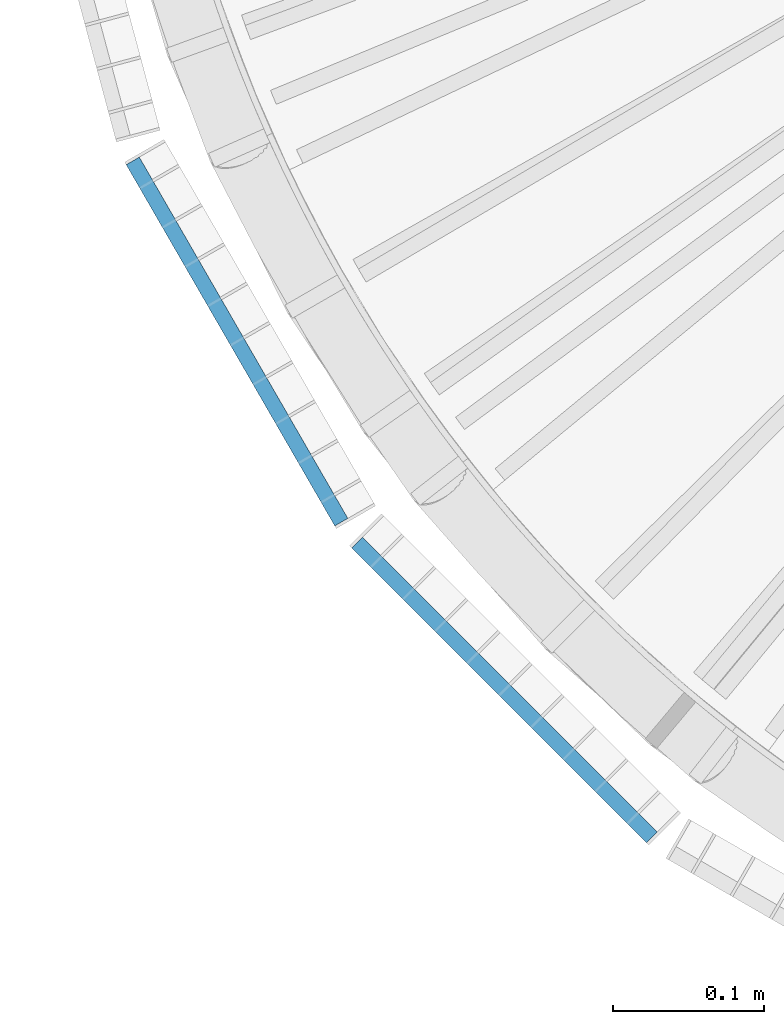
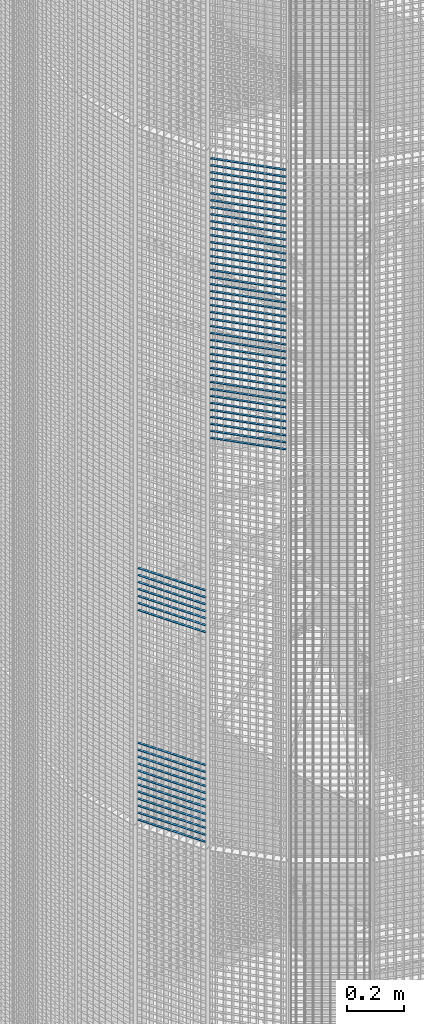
# One storey, part 335 of 1148: 60 beams, 2 elements without a shape of their own.
"""IFC2X3 building model written with IfcOpenShell, lengths in millimetres."""

from ifc_helpers import new_model, si_unit, frame, origin_with_axes, origin_2d_with_axis, place, context, subcontext, project, spatial, rectangle, extrude, material, type_object, element, aggregate, save


model = new_model("IFC2X3")

# Units and contexts
model_context = context("Model", 3, precision=1e-05, world=origin_with_axes())
body_context = subcontext(model_context, "Body", "Model", "MODEL_VIEW")
ifc_project = project(units=[si_unit("LENGTHUNIT", "METRE", prefix="MILLI"), si_unit("AREAUNIT", "SQUARE_METRE"), si_unit("VOLUMEUNIT", "CUBIC_METRE"), si_unit("MASSUNIT", "GRAM", prefix="KILO"), si_unit("TIMEUNIT", "SECOND"), si_unit("PLANEANGLEUNIT", "RADIAN"), si_unit("SOLIDANGLEUNIT", "STERADIAN"), si_unit("THERMODYNAMICTEMPERATUREUNIT", "DEGREE_CELSIUS"), si_unit("LUMINOUSINTENSITYUNIT", "LUMEN")], contexts=[model_context])

# Site, building, storey
site_placement = place(None, origin_with_axes())
site = spatial("IfcSite", under=ifc_project, at=site_placement, Name="Undefined", CompositionType="ELEMENT")
building_placement = place(site_placement, origin_with_axes())
building = spatial("IfcBuilding", under=site, at=building_placement, Name="Undefined", CompositionType="ELEMENT")
storey_placement = place(building_placement, origin_with_axes())
storey = spatial("IfcBuildingStorey", under=building, at=storey_placement, Name="Undefined", CompositionType="ELEMENT", Elevation=0.0)

# Assembly, beams
assembly_1_placement = place(storey_placement, origin_with_axes())
assembly_1 = element("IfcElementAssembly", 1, at=assembly_1_placement, inside=storey, Name="BORDURE", AssemblyPlace="NOTDEFINED", PredefinedType="NOTDEFINED")
ifc_material = material(Name="STEEL/S235JR")
beam_type = type_object("IfcBeamType", Name="PL2*10", PredefinedType="NOTDEFINED")
beam_1_placement = place(assembly_1_placement, frame((20704.6960350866, -676.248044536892, 12930.0), z_axis=(-0.866025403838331, -0.499999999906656, 0.0), x_axis=(-0.49999999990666, 0.866025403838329, 0.0)))
beam_1 = element("IfcBeam", 2, at=beam_1_placement, type_object=beam_type, material=ifc_material, Name="ENTRETOISE", context=body_context, shape_type="SweptSolid", body=[
    extrude(rectangle(XDim=2.0, YDim=10.0, at=origin_2d_with_axis()), frame((275.999999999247, 9.09494701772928e-13, 1.53210777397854e-14), z_axis=(-1.0, 0.0, 0.0), x_axis=(0.0, -1.0, 0.0)), (0.0, 0.0, 1.0), 276.0),
])
beam_2_placement = place(assembly_1_placement, frame((20704.6960350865, -676.24804453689, 12360.0), z_axis=(-0.866025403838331, -0.499999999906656, 0.0), x_axis=(-0.49999999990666, 0.866025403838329, 0.0)))
beam_2 = element("IfcBeam", 3, at=beam_2_placement, type_object=beam_type, material=ifc_material, Name="ENTRETOISE", context=body_context, shape_type="SweptSolid", body=[
    extrude(rectangle(XDim=2.0, YDim=10.0, at=origin_2d_with_axis()), frame((275.999999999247, 9.09494701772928e-13, 1.53210777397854e-14), z_axis=(-1.0, 0.0, 0.0), x_axis=(0.0, -1.0, 0.0)), (0.0, 0.0, 1.0), 276.0),
])
beam_3_placement = place(assembly_1_placement, frame((20704.6960350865, -676.24804453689, 12330.0), z_axis=(-0.866025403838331, -0.499999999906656, 0.0), x_axis=(-0.49999999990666, 0.866025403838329, 0.0)))
beam_3 = element("IfcBeam", 4, at=beam_3_placement, type_object=beam_type, material=ifc_material, Name="ENTRETOISE", context=body_context, shape_type="SweptSolid", body=[
    extrude(rectangle(XDim=2.0, YDim=10.0, at=origin_2d_with_axis()), frame((275.999999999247, 9.09494701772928e-13, 1.53210777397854e-14), z_axis=(-1.0, 0.0, 0.0), x_axis=(0.0, -1.0, 0.0)), (0.0, 0.0, 1.0), 276.0),
])
beam_4_placement = place(assembly_1_placement, frame((20704.6960350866, -676.248044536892, 12960.0), z_axis=(-0.866025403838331, -0.499999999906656, 0.0), x_axis=(-0.49999999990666, 0.866025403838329, 0.0)))
beam_4 = element("IfcBeam", 5, at=beam_4_placement, type_object=beam_type, material=ifc_material, Name="ENTRETOISE", context=body_context, shape_type="SweptSolid", body=[
    extrude(rectangle(XDim=2.0, YDim=10.0, at=origin_2d_with_axis()), frame((275.999999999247, 9.09494701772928e-13, 1.53210777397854e-14), z_axis=(-1.0, 0.0, 0.0), x_axis=(0.0, -1.0, 0.0)), (0.0, 0.0, 1.0), 276.0),
])
beam_5_placement = place(assembly_1_placement, frame((20704.6960350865, -676.24804453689, 12300.0), z_axis=(-0.866025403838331, -0.499999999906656, 0.0), x_axis=(-0.49999999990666, 0.866025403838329, 0.0)))
beam_5 = element("IfcBeam", 6, at=beam_5_placement, type_object=beam_type, material=ifc_material, Name="ENTRETOISE", context=body_context, shape_type="SweptSolid", body=[
    extrude(rectangle(XDim=2.0, YDim=10.0, at=origin_2d_with_axis()), frame((275.999999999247, 9.09494701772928e-13, 1.53210777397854e-14), z_axis=(-1.0, 0.0, 0.0), x_axis=(0.0, -1.0, 0.0)), (0.0, 0.0, 1.0), 276.0),
])
beam_6_placement = place(assembly_1_placement, frame((20704.6960350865, -676.24804453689, 12270.0), z_axis=(-0.866025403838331, -0.499999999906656, 0.0), x_axis=(-0.49999999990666, 0.866025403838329, 0.0)))
beam_6 = element("IfcBeam", 7, at=beam_6_placement, type_object=beam_type, material=ifc_material, Name="ENTRETOISE", context=body_context, shape_type="SweptSolid", body=[
    extrude(rectangle(XDim=2.0, YDim=10.0, at=origin_2d_with_axis()), frame((275.999999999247, 9.09494701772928e-13, 1.53210777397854e-14), z_axis=(-1.0, 0.0, 0.0), x_axis=(0.0, -1.0, 0.0)), (0.0, 0.0, 1.0), 276.0),
])
beam_7_placement = place(assembly_1_placement, frame((20704.6960350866, -676.248044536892, 12990.0), z_axis=(-0.866025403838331, -0.499999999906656, 0.0), x_axis=(-0.49999999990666, 0.866025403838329, 0.0)))
beam_7 = element("IfcBeam", 8, at=beam_7_placement, type_object=beam_type, material=ifc_material, Name="ENTRETOISE", context=body_context, shape_type="SweptSolid", body=[
    extrude(rectangle(XDim=2.0, YDim=10.0, at=origin_2d_with_axis()), frame((275.999999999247, 9.09494701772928e-13, 1.53210777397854e-14), z_axis=(-1.0, 0.0, 0.0), x_axis=(0.0, -1.0, 0.0)), (0.0, 0.0, 1.0), 276.0),
])
beam_8_placement = place(assembly_1_placement, frame((20704.6960350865, -676.24804453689, 12240.0), z_axis=(-0.866025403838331, -0.499999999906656, 0.0), x_axis=(-0.49999999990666, 0.866025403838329, 0.0)))
beam_8 = element("IfcBeam", 9, at=beam_8_placement, type_object=beam_type, material=ifc_material, Name="ENTRETOISE", context=body_context, shape_type="SweptSolid", body=[
    extrude(rectangle(XDim=2.0, YDim=10.0, at=origin_2d_with_axis()), frame((275.999999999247, 9.09494701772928e-13, 1.53210777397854e-14), z_axis=(-1.0, 0.0, 0.0), x_axis=(0.0, -1.0, 0.0)), (0.0, 0.0, 1.0), 276.0),
])
beam_9_placement = place(assembly_1_placement, frame((20704.6960350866, -676.248044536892, 13020.0), z_axis=(-0.866025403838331, -0.499999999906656, 0.0), x_axis=(-0.49999999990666, 0.866025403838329, 0.0)))
beam_9 = element("IfcBeam", 10, at=beam_9_placement, type_object=beam_type, material=ifc_material, Name="ENTRETOISE", context=body_context, shape_type="SweptSolid", body=[
    extrude(rectangle(XDim=2.0, YDim=10.0, at=origin_2d_with_axis()), frame((275.999999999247, 9.09494701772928e-13, 1.53210777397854e-14), z_axis=(-1.0, 0.0, 0.0), x_axis=(0.0, -1.0, 0.0)), (0.0, 0.0, 1.0), 276.0),
])
beam_10_placement = place(assembly_1_placement, frame((20704.6960350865, -676.24804453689, 12210.0), z_axis=(-0.866025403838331, -0.499999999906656, 0.0), x_axis=(-0.49999999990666, 0.866025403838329, 0.0)))
beam_10 = element("IfcBeam", 11, at=beam_10_placement, type_object=beam_type, material=ifc_material, Name="ENTRETOISE", context=body_context, shape_type="SweptSolid", body=[
    extrude(rectangle(XDim=2.0, YDim=10.0, at=origin_2d_with_axis()), frame((275.999999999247, 9.09494701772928e-13, 1.53210777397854e-14), z_axis=(-1.0, 0.0, 0.0), x_axis=(0.0, -1.0, 0.0)), (0.0, 0.0, 1.0), 276.0),
])
beam_11_placement = place(assembly_1_placement, frame((20704.6960350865, -676.24804453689, 12180.0), z_axis=(-0.866025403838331, -0.499999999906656, 0.0), x_axis=(-0.49999999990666, 0.866025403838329, 0.0)))
beam_11 = element("IfcBeam", 12, at=beam_11_placement, type_object=beam_type, material=ifc_material, Name="ENTRETOISE", context=body_context, shape_type="SweptSolid", body=[
    extrude(rectangle(XDim=2.0, YDim=10.0, at=origin_2d_with_axis()), frame((275.999999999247, 9.09494701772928e-13, 1.53210777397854e-14), z_axis=(-1.0, 0.0, 0.0), x_axis=(0.0, -1.0, 0.0)), (0.0, 0.0, 1.0), 276.0),
])
beam_12_placement = place(assembly_1_placement, frame((20704.6960350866, -676.248044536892, 13050.0), z_axis=(-0.866025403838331, -0.499999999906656, 0.0), x_axis=(-0.49999999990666, 0.866025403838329, 0.0)))
beam_12 = element("IfcBeam", 13, at=beam_12_placement, type_object=beam_type, material=ifc_material, Name="ENTRETOISE", context=body_context, shape_type="SweptSolid", body=[
    extrude(rectangle(XDim=2.0, YDim=10.0, at=origin_2d_with_axis()), frame((275.999999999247, 9.09494701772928e-13, 1.53210777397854e-14), z_axis=(-1.0, 0.0, 0.0), x_axis=(0.0, -1.0, 0.0)), (0.0, 0.0, 1.0), 276.0),
])
beam_13_placement = place(assembly_1_placement, frame((20704.6960350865, -676.24804453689, 12150.0), z_axis=(-0.866025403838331, -0.499999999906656, 0.0), x_axis=(-0.49999999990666, 0.866025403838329, 0.0)))
beam_13 = element("IfcBeam", 14, at=beam_13_placement, type_object=beam_type, material=ifc_material, Name="ENTRETOISE", context=body_context, shape_type="SweptSolid", body=[
    extrude(rectangle(XDim=2.0, YDim=10.0, at=origin_2d_with_axis()), frame((275.999999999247, 9.09494701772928e-13, 1.53210777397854e-14), z_axis=(-1.0, 0.0, 0.0), x_axis=(0.0, -1.0, 0.0)), (0.0, 0.0, 1.0), 276.0),
])
beam_14_placement = place(assembly_1_placement, frame((20704.6960350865, -676.24804453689, 12120.0), z_axis=(-0.866025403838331, -0.499999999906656, 0.0), x_axis=(-0.49999999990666, 0.866025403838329, 0.0)))
beam_14 = element("IfcBeam", 15, at=beam_14_placement, type_object=beam_type, material=ifc_material, Name="ENTRETOISE", context=body_context, shape_type="SweptSolid", body=[
    extrude(rectangle(XDim=2.0, YDim=10.0, at=origin_2d_with_axis()), frame((275.999999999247, 9.09494701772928e-13, 1.53210777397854e-14), z_axis=(-1.0, 0.0, 0.0), x_axis=(0.0, -1.0, 0.0)), (0.0, 0.0, 1.0), 276.0),
])
beam_15_placement = place(assembly_1_placement, frame((20704.6960350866, -676.248044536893, 13080.0), z_axis=(-0.866025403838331, -0.499999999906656, 0.0), x_axis=(-0.49999999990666, 0.866025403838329, 0.0)))
beam_15 = element("IfcBeam", 16, at=beam_15_placement, type_object=beam_type, material=ifc_material, Name="ENTRETOISE", context=body_context, shape_type="SweptSolid", body=[
    extrude(rectangle(XDim=2.0, YDim=10.0, at=origin_2d_with_axis()), frame((275.999999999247, 9.09494701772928e-13, 1.53210777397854e-14), z_axis=(-1.0, 0.0, 0.0), x_axis=(0.0, -1.0, 0.0)), (0.0, 0.0, 1.0), 276.0),
])
beam_16_placement = place(assembly_1_placement, frame((20704.6960350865, -676.248044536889, 12090.0), z_axis=(-0.866025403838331, -0.499999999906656, 0.0), x_axis=(-0.49999999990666, 0.866025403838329, 0.0)))
beam_16 = element("IfcBeam", 17, at=beam_16_placement, type_object=beam_type, material=ifc_material, Name="ENTRETOISE", context=body_context, shape_type="SweptSolid", body=[
    extrude(rectangle(XDim=2.0, YDim=10.0, at=origin_2d_with_axis()), frame((275.999999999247, 9.09494701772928e-13, 1.53210777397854e-14), z_axis=(-1.0, 0.0, 0.0), x_axis=(0.0, -1.0, 0.0)), (0.0, 0.0, 1.0), 276.0),
])
beam_17_placement = place(assembly_1_placement, frame((20704.6960350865, -676.248044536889, 12060.0), z_axis=(-0.866025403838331, -0.499999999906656, 0.0), x_axis=(-0.49999999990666, 0.866025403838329, 0.0)))
beam_17 = element("IfcBeam", 18, at=beam_17_placement, type_object=beam_type, material=ifc_material, Name="ENTRETOISE", context=body_context, shape_type="SweptSolid", body=[
    extrude(rectangle(XDim=2.0, YDim=10.0, at=origin_2d_with_axis()), frame((275.999999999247, 9.09494701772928e-13, 1.53210777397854e-14), z_axis=(-1.0, 0.0, 0.0), x_axis=(0.0, -1.0, 0.0)), (0.0, 0.0, 1.0), 276.0),
])
beam_18_placement = place(assembly_1_placement, frame((20704.6960350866, -676.248044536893, 13110.0), z_axis=(-0.866025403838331, -0.499999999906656, 0.0), x_axis=(-0.49999999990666, 0.866025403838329, 0.0)))
beam_18 = element("IfcBeam", 19, at=beam_18_placement, type_object=beam_type, material=ifc_material, Name="ENTRETOISE", context=body_context, shape_type="SweptSolid", body=[
    extrude(rectangle(XDim=2.0, YDim=10.0, at=origin_2d_with_axis()), frame((275.999999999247, 9.09494701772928e-13, 1.53210777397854e-14), z_axis=(-1.0, 0.0, 0.0), x_axis=(0.0, -1.0, 0.0)), (0.0, 0.0, 1.0), 276.0),
])
beam_19_placement = place(assembly_1_placement, frame((20704.6960350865, -676.248044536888, 12030.0), z_axis=(-0.866025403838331, -0.499999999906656, 0.0), x_axis=(-0.49999999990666, 0.866025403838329, 0.0)))
beam_19 = element("IfcBeam", 20, at=beam_19_placement, type_object=beam_type, material=ifc_material, Name="ENTRETOISE", context=body_context, shape_type="SweptSolid", body=[
    extrude(rectangle(XDim=2.0, YDim=10.0, at=origin_2d_with_axis()), frame((275.999999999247, 9.09494701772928e-13, 1.53210777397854e-14), z_axis=(-1.0, 0.0, 0.0), x_axis=(0.0, -1.0, 0.0)), (0.0, 0.0, 1.0), 276.0),
])
aggregate(assembly_1, [beam_1, beam_2, beam_3, beam_4, beam_5, beam_6, beam_7, beam_8, beam_9, beam_10, beam_11, beam_12, beam_13, beam_14, beam_15, beam_16, beam_17, beam_18, beam_19])

assembly_2_placement = place(storey_placement, origin_with_axes())
assembly_2 = element("IfcElementAssembly", 21, at=assembly_2_placement, inside=storey, Name="BORDURE", AssemblyPlace="NOTDEFINED", PredefinedType="NOTDEFINED")
beam_20_placement = place(assembly_2_placement, frame((20910.2286510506, -884.927168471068, 14970.0), z_axis=(-0.70710678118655, -0.707106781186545, 0.0), x_axis=(-0.707106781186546, 0.707106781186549, 0.0)))
beam_20 = element("IfcBeam", 22, at=beam_20_placement, type_object=beam_type, material=ifc_material, Name="ENTRETOISE", context=body_context, shape_type="SweptSolid", body=[
    extrude(rectangle(XDim=2.0, YDim=10.0, at=origin_2d_with_axis()), frame((275.999999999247, 9.09494701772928e-13, 1.53210777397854e-14), z_axis=(-1.0, 0.0, 0.0), x_axis=(0.0, -1.0, 0.0)), (0.0, 0.0, 1.0), 276.0),
])
beam_21_placement = place(assembly_2_placement, frame((20910.2286510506, -884.927168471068, 14940.0), z_axis=(-0.70710678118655, -0.707106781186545, 0.0), x_axis=(-0.707106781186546, 0.707106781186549, 0.0)))
beam_21 = element("IfcBeam", 23, at=beam_21_placement, type_object=beam_type, material=ifc_material, Name="ENTRETOISE", context=body_context, shape_type="SweptSolid", body=[
    extrude(rectangle(XDim=2.0, YDim=10.0, at=origin_2d_with_axis()), frame((275.999999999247, 9.09494701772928e-13, 1.53210777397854e-14), z_axis=(-1.0, 0.0, 0.0), x_axis=(0.0, -1.0, 0.0)), (0.0, 0.0, 1.0), 276.0),
])
beam_22_placement = place(assembly_2_placement, frame((20910.2286510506, -884.927168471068, 14910.0), z_axis=(-0.70710678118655, -0.707106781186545, 0.0), x_axis=(-0.707106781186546, 0.707106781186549, 0.0)))
beam_22 = element("IfcBeam", 24, at=beam_22_placement, type_object=beam_type, material=ifc_material, Name="ENTRETOISE", context=body_context, shape_type="SweptSolid", body=[
    extrude(rectangle(XDim=2.0, YDim=10.0, at=origin_2d_with_axis()), frame((275.999999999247, 9.09494701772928e-13, 1.53210777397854e-14), z_axis=(-1.0, 0.0, 0.0), x_axis=(0.0, -1.0, 0.0)), (0.0, 0.0, 1.0), 276.0),
])
beam_23_placement = place(assembly_2_placement, frame((20910.2286510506, -884.927168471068, 14880.0), z_axis=(-0.70710678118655, -0.707106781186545, 0.0), x_axis=(-0.707106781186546, 0.707106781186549, 0.0)))
beam_23 = element("IfcBeam", 25, at=beam_23_placement, type_object=beam_type, material=ifc_material, Name="ENTRETOISE", context=body_context, shape_type="SweptSolid", body=[
    extrude(rectangle(XDim=2.0, YDim=10.0, at=origin_2d_with_axis()), frame((275.999999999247, 9.09494701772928e-13, 1.53210777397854e-14), z_axis=(-1.0, 0.0, 0.0), x_axis=(0.0, -1.0, 0.0)), (0.0, 0.0, 1.0), 276.0),
])
beam_24_placement = place(assembly_2_placement, frame((20910.2286510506, -884.927168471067, 14850.0), z_axis=(-0.70710678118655, -0.707106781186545, 0.0), x_axis=(-0.707106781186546, 0.707106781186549, 0.0)))
beam_24 = element("IfcBeam", 26, at=beam_24_placement, type_object=beam_type, material=ifc_material, Name="ENTRETOISE", context=body_context, shape_type="SweptSolid", body=[
    extrude(rectangle(XDim=2.0, YDim=10.0, at=origin_2d_with_axis()), frame((275.999999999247, 9.09494701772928e-13, 1.53210777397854e-14), z_axis=(-1.0, 0.0, 0.0), x_axis=(0.0, -1.0, 0.0)), (0.0, 0.0, 1.0), 276.0),
])
beam_25_placement = place(assembly_2_placement, frame((20910.2286510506, -884.927168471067, 14820.0), z_axis=(-0.70710678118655, -0.707106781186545, 0.0), x_axis=(-0.707106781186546, 0.707106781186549, 0.0)))
beam_25 = element("IfcBeam", 27, at=beam_25_placement, type_object=beam_type, material=ifc_material, Name="ENTRETOISE", context=body_context, shape_type="SweptSolid", body=[
    extrude(rectangle(XDim=2.0, YDim=10.0, at=origin_2d_with_axis()), frame((275.999999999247, 9.09494701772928e-13, 1.53210777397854e-14), z_axis=(-1.0, 0.0, 0.0), x_axis=(0.0, -1.0, 0.0)), (0.0, 0.0, 1.0), 276.0),
])
beam_26_placement = place(assembly_2_placement, frame((20910.2286510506, -884.927168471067, 14790.0), z_axis=(-0.70710678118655, -0.707106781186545, 0.0), x_axis=(-0.707106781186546, 0.707106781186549, 0.0)))
beam_26 = element("IfcBeam", 28, at=beam_26_placement, type_object=beam_type, material=ifc_material, Name="ENTRETOISE", context=body_context, shape_type="SweptSolid", body=[
    extrude(rectangle(XDim=2.0, YDim=10.0, at=origin_2d_with_axis()), frame((275.999999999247, 9.09494701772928e-13, 1.53210777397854e-14), z_axis=(-1.0, 0.0, 0.0), x_axis=(0.0, -1.0, 0.0)), (0.0, 0.0, 1.0), 276.0),
])
beam_27_placement = place(assembly_2_placement, frame((20910.2286510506, -884.927168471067, 14760.0), z_axis=(-0.70710678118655, -0.707106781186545, 0.0), x_axis=(-0.707106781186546, 0.707106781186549, 0.0)))
beam_27 = element("IfcBeam", 29, at=beam_27_placement, type_object=beam_type, material=ifc_material, Name="ENTRETOISE", context=body_context, shape_type="SweptSolid", body=[
    extrude(rectangle(XDim=2.0, YDim=10.0, at=origin_2d_with_axis()), frame((275.999999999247, 9.09494701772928e-13, 1.53210777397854e-14), z_axis=(-1.0, 0.0, 0.0), x_axis=(0.0, -1.0, 0.0)), (0.0, 0.0, 1.0), 276.0),
])
beam_28_placement = place(assembly_2_placement, frame((20910.2286510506, -884.927168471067, 14730.0), z_axis=(-0.70710678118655, -0.707106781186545, 0.0), x_axis=(-0.707106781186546, 0.707106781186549, 0.0)))
beam_28 = element("IfcBeam", 30, at=beam_28_placement, type_object=beam_type, material=ifc_material, Name="ENTRETOISE", context=body_context, shape_type="SweptSolid", body=[
    extrude(rectangle(XDim=2.0, YDim=10.0, at=origin_2d_with_axis()), frame((275.999999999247, 9.09494701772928e-13, 1.53210777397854e-14), z_axis=(-1.0, 0.0, 0.0), x_axis=(0.0, -1.0, 0.0)), (0.0, 0.0, 1.0), 276.0),
])
beam_29_placement = place(assembly_2_placement, frame((20910.2286510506, -884.927168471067, 14700.0), z_axis=(-0.70710678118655, -0.707106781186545, 0.0), x_axis=(-0.707106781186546, 0.707106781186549, 0.0)))
beam_29 = element("IfcBeam", 31, at=beam_29_placement, type_object=beam_type, material=ifc_material, Name="ENTRETOISE", context=body_context, shape_type="SweptSolid", body=[
    extrude(rectangle(XDim=2.0, YDim=10.0, at=origin_2d_with_axis()), frame((275.999999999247, 9.09494701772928e-13, 1.53210777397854e-14), z_axis=(-1.0, 0.0, 0.0), x_axis=(0.0, -1.0, 0.0)), (0.0, 0.0, 1.0), 276.0),
])
beam_30_placement = place(assembly_2_placement, frame((20910.2286510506, -884.927168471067, 14670.0), z_axis=(-0.70710678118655, -0.707106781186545, 0.0), x_axis=(-0.707106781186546, 0.707106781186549, 0.0)))
beam_30 = element("IfcBeam", 32, at=beam_30_placement, type_object=beam_type, material=ifc_material, Name="ENTRETOISE", context=body_context, shape_type="SweptSolid", body=[
    extrude(rectangle(XDim=2.0, YDim=10.0, at=origin_2d_with_axis()), frame((275.999999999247, 9.09494701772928e-13, 1.53210777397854e-14), z_axis=(-1.0, 0.0, 0.0), x_axis=(0.0, -1.0, 0.0)), (0.0, 0.0, 1.0), 276.0),
])
beam_31_placement = place(assembly_2_placement, frame((20910.2286510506, -884.927168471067, 14640.0), z_axis=(-0.70710678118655, -0.707106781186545, 0.0), x_axis=(-0.707106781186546, 0.707106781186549, 0.0)))
beam_31 = element("IfcBeam", 33, at=beam_31_placement, type_object=beam_type, material=ifc_material, Name="ENTRETOISE", context=body_context, shape_type="SweptSolid", body=[
    extrude(rectangle(XDim=2.0, YDim=10.0, at=origin_2d_with_axis()), frame((275.999999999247, 9.09494701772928e-13, 1.53210777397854e-14), z_axis=(-1.0, 0.0, 0.0), x_axis=(0.0, -1.0, 0.0)), (0.0, 0.0, 1.0), 276.0),
])
beam_32_placement = place(assembly_2_placement, frame((20910.2286510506, -884.927168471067, 14610.0), z_axis=(-0.70710678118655, -0.707106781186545, 0.0), x_axis=(-0.707106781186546, 0.707106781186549, 0.0)))
beam_32 = element("IfcBeam", 34, at=beam_32_placement, type_object=beam_type, material=ifc_material, Name="ENTRETOISE", context=body_context, shape_type="SweptSolid", body=[
    extrude(rectangle(XDim=2.0, YDim=10.0, at=origin_2d_with_axis()), frame((275.999999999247, 9.09494701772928e-13, 1.53210777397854e-14), z_axis=(-1.0, 0.0, 0.0), x_axis=(0.0, -1.0, 0.0)), (0.0, 0.0, 1.0), 276.0),
])
beam_33_placement = place(assembly_2_placement, frame((20910.2286510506, -884.927168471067, 14580.0), z_axis=(-0.70710678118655, -0.707106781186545, 0.0), x_axis=(-0.707106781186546, 0.707106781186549, 0.0)))
beam_33 = element("IfcBeam", 35, at=beam_33_placement, type_object=beam_type, material=ifc_material, Name="ENTRETOISE", context=body_context, shape_type="SweptSolid", body=[
    extrude(rectangle(XDim=2.0, YDim=10.0, at=origin_2d_with_axis()), frame((275.999999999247, 9.09494701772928e-13, 1.53210777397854e-14), z_axis=(-1.0, 0.0, 0.0), x_axis=(0.0, -1.0, 0.0)), (0.0, 0.0, 1.0), 276.0),
])
beam_34_placement = place(assembly_2_placement, frame((20910.2286510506, -884.927168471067, 14550.0), z_axis=(-0.70710678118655, -0.707106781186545, 0.0), x_axis=(-0.707106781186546, 0.707106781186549, 0.0)))
beam_34 = element("IfcBeam", 36, at=beam_34_placement, type_object=beam_type, material=ifc_material, Name="ENTRETOISE", context=body_context, shape_type="SweptSolid", body=[
    extrude(rectangle(XDim=2.0, YDim=10.0, at=origin_2d_with_axis()), frame((275.999999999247, 9.09494701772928e-13, 1.53210777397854e-14), z_axis=(-1.0, 0.0, 0.0), x_axis=(0.0, -1.0, 0.0)), (0.0, 0.0, 1.0), 276.0),
])
beam_35_placement = place(assembly_2_placement, frame((20910.2286510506, -884.927168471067, 14520.0), z_axis=(-0.70710678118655, -0.707106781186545, 0.0), x_axis=(-0.707106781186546, 0.707106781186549, 0.0)))
beam_35 = element("IfcBeam", 37, at=beam_35_placement, type_object=beam_type, material=ifc_material, Name="ENTRETOISE", context=body_context, shape_type="SweptSolid", body=[
    extrude(rectangle(XDim=2.0, YDim=10.0, at=origin_2d_with_axis()), frame((275.999999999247, 9.09494701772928e-13, 1.53210777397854e-14), z_axis=(-1.0, 0.0, 0.0), x_axis=(0.0, -1.0, 0.0)), (0.0, 0.0, 1.0), 276.0),
])
beam_36_placement = place(assembly_2_placement, frame((20910.2286510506, -884.927168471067, 14490.0), z_axis=(-0.70710678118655, -0.707106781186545, 0.0), x_axis=(-0.707106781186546, 0.707106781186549, 0.0)))
beam_36 = element("IfcBeam", 38, at=beam_36_placement, type_object=beam_type, material=ifc_material, Name="ENTRETOISE", context=body_context, shape_type="SweptSolid", body=[
    extrude(rectangle(XDim=2.0, YDim=10.0, at=origin_2d_with_axis()), frame((275.999999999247, 9.09494701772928e-13, 1.53210777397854e-14), z_axis=(-1.0, 0.0, 0.0), x_axis=(0.0, -1.0, 0.0)), (0.0, 0.0, 1.0), 276.0),
])
beam_37_placement = place(assembly_2_placement, frame((20910.2286510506, -884.927168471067, 14460.0), z_axis=(-0.70710678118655, -0.707106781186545, 0.0), x_axis=(-0.707106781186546, 0.707106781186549, 0.0)))
beam_37 = element("IfcBeam", 39, at=beam_37_placement, type_object=beam_type, material=ifc_material, Name="ENTRETOISE", context=body_context, shape_type="SweptSolid", body=[
    extrude(rectangle(XDim=2.0, YDim=10.0, at=origin_2d_with_axis()), frame((275.999999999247, 9.09494701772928e-13, 1.53210777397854e-14), z_axis=(-1.0, 0.0, 0.0), x_axis=(0.0, -1.0, 0.0)), (0.0, 0.0, 1.0), 276.0),
])
beam_38_placement = place(assembly_2_placement, frame((20910.2286510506, -884.927168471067, 14430.0), z_axis=(-0.70710678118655, -0.707106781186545, 0.0), x_axis=(-0.707106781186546, 0.707106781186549, 0.0)))
beam_38 = element("IfcBeam", 40, at=beam_38_placement, type_object=beam_type, material=ifc_material, Name="ENTRETOISE", context=body_context, shape_type="SweptSolid", body=[
    extrude(rectangle(XDim=2.0, YDim=10.0, at=origin_2d_with_axis()), frame((275.999999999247, 9.09494701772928e-13, 1.53210777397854e-14), z_axis=(-1.0, 0.0, 0.0), x_axis=(0.0, -1.0, 0.0)), (0.0, 0.0, 1.0), 276.0),
])
beam_39_placement = place(assembly_2_placement, frame((20910.2286510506, -884.927168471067, 14400.0), z_axis=(-0.70710678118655, -0.707106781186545, 0.0), x_axis=(-0.707106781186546, 0.707106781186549, 0.0)))
beam_39 = element("IfcBeam", 41, at=beam_39_placement, type_object=beam_type, material=ifc_material, Name="ENTRETOISE", context=body_context, shape_type="SweptSolid", body=[
    extrude(rectangle(XDim=2.0, YDim=10.0, at=origin_2d_with_axis()), frame((275.999999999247, 9.09494701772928e-13, 1.53210777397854e-14), z_axis=(-1.0, 0.0, 0.0), x_axis=(0.0, -1.0, 0.0)), (0.0, 0.0, 1.0), 276.0),
])
beam_40_placement = place(assembly_2_placement, frame((20910.2286510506, -884.927168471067, 14370.0), z_axis=(-0.70710678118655, -0.707106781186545, 0.0), x_axis=(-0.707106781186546, 0.707106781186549, 0.0)))
beam_40 = element("IfcBeam", 42, at=beam_40_placement, type_object=beam_type, material=ifc_material, Name="ENTRETOISE", context=body_context, shape_type="SweptSolid", body=[
    extrude(rectangle(XDim=2.0, YDim=10.0, at=origin_2d_with_axis()), frame((275.999999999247, 9.09494701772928e-13, 1.53210777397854e-14), z_axis=(-1.0, 0.0, 0.0), x_axis=(0.0, -1.0, 0.0)), (0.0, 0.0, 1.0), 276.0),
])
beam_41_placement = place(assembly_2_placement, frame((20910.2286510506, -884.927168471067, 14340.0), z_axis=(-0.70710678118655, -0.707106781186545, 0.0), x_axis=(-0.707106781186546, 0.707106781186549, 0.0)))
beam_41 = element("IfcBeam", 43, at=beam_41_placement, type_object=beam_type, material=ifc_material, Name="ENTRETOISE", context=body_context, shape_type="SweptSolid", body=[
    extrude(rectangle(XDim=2.0, YDim=10.0, at=origin_2d_with_axis()), frame((275.999999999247, 9.09494701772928e-13, 1.53210777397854e-14), z_axis=(-1.0, 0.0, 0.0), x_axis=(0.0, -1.0, 0.0)), (0.0, 0.0, 1.0), 276.0),
])
beam_42_placement = place(assembly_2_placement, frame((20910.2286510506, -884.927168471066, 14310.0), z_axis=(-0.70710678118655, -0.707106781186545, 0.0), x_axis=(-0.707106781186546, 0.707106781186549, 0.0)))
beam_42 = element("IfcBeam", 44, at=beam_42_placement, type_object=beam_type, material=ifc_material, Name="ENTRETOISE", context=body_context, shape_type="SweptSolid", body=[
    extrude(rectangle(XDim=2.0, YDim=10.0, at=origin_2d_with_axis()), frame((275.999999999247, 9.09494701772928e-13, 1.53210777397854e-14), z_axis=(-1.0, 0.0, 0.0), x_axis=(0.0, -1.0, 0.0)), (0.0, 0.0, 1.0), 276.0),
])
beam_43_placement = place(assembly_2_placement, frame((20910.2286510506, -884.927168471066, 14280.0), z_axis=(-0.70710678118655, -0.707106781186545, 0.0), x_axis=(-0.707106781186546, 0.707106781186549, 0.0)))
beam_43 = element("IfcBeam", 45, at=beam_43_placement, type_object=beam_type, material=ifc_material, Name="ENTRETOISE", context=body_context, shape_type="SweptSolid", body=[
    extrude(rectangle(XDim=2.0, YDim=10.0, at=origin_2d_with_axis()), frame((275.999999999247, 9.09494701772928e-13, 1.53210777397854e-14), z_axis=(-1.0, 0.0, 0.0), x_axis=(0.0, -1.0, 0.0)), (0.0, 0.0, 1.0), 276.0),
])
beam_44_placement = place(assembly_2_placement, frame((20910.2286510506, -884.927168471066, 14250.0), z_axis=(-0.70710678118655, -0.707106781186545, 0.0), x_axis=(-0.707106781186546, 0.707106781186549, 0.0)))
beam_44 = element("IfcBeam", 46, at=beam_44_placement, type_object=beam_type, material=ifc_material, Name="ENTRETOISE", context=body_context, shape_type="SweptSolid", body=[
    extrude(rectangle(XDim=2.0, YDim=10.0, at=origin_2d_with_axis()), frame((275.999999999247, 9.09494701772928e-13, 1.53210777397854e-14), z_axis=(-1.0, 0.0, 0.0), x_axis=(0.0, -1.0, 0.0)), (0.0, 0.0, 1.0), 276.0),
])
beam_45_placement = place(assembly_2_placement, frame((20910.2286510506, -884.927168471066, 14220.0), z_axis=(-0.70710678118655, -0.707106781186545, 0.0), x_axis=(-0.707106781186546, 0.707106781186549, 0.0)))
beam_45 = element("IfcBeam", 47, at=beam_45_placement, type_object=beam_type, material=ifc_material, Name="ENTRETOISE", context=body_context, shape_type="SweptSolid", body=[
    extrude(rectangle(XDim=2.0, YDim=10.0, at=origin_2d_with_axis()), frame((275.999999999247, 9.09494701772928e-13, 1.53210777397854e-14), z_axis=(-1.0, 0.0, 0.0), x_axis=(0.0, -1.0, 0.0)), (0.0, 0.0, 1.0), 276.0),
])
beam_46_placement = place(assembly_2_placement, frame((20910.2286510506, -884.927168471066, 14190.0), z_axis=(-0.70710678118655, -0.707106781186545, 0.0), x_axis=(-0.707106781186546, 0.707106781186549, 0.0)))
beam_46 = element("IfcBeam", 48, at=beam_46_placement, type_object=beam_type, material=ifc_material, Name="ENTRETOISE", context=body_context, shape_type="SweptSolid", body=[
    extrude(rectangle(XDim=2.0, YDim=10.0, at=origin_2d_with_axis()), frame((275.999999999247, 9.09494701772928e-13, 1.53210777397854e-14), z_axis=(-1.0, 0.0, 0.0), x_axis=(0.0, -1.0, 0.0)), (0.0, 0.0, 1.0), 276.0),
])
beam_47_placement = place(assembly_2_placement, frame((20910.2286510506, -884.927168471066, 14160.0), z_axis=(-0.70710678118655, -0.707106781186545, 0.0), x_axis=(-0.707106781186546, 0.707106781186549, 0.0)))
beam_47 = element("IfcBeam", 49, at=beam_47_placement, type_object=beam_type, material=ifc_material, Name="ENTRETOISE", context=body_context, shape_type="SweptSolid", body=[
    extrude(rectangle(XDim=2.0, YDim=10.0, at=origin_2d_with_axis()), frame((275.999999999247, 9.09494701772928e-13, 1.53210777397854e-14), z_axis=(-1.0, 0.0, 0.0), x_axis=(0.0, -1.0, 0.0)), (0.0, 0.0, 1.0), 276.0),
])
beam_48_placement = place(assembly_2_placement, frame((20910.2286510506, -884.927168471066, 14130.0), z_axis=(-0.70710678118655, -0.707106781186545, 0.0), x_axis=(-0.707106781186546, 0.707106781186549, 0.0)))
beam_48 = element("IfcBeam", 50, at=beam_48_placement, type_object=beam_type, material=ifc_material, Name="ENTRETOISE", context=body_context, shape_type="SweptSolid", body=[
    extrude(rectangle(XDim=2.0, YDim=10.0, at=origin_2d_with_axis()), frame((275.999999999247, 9.09494701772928e-13, 1.53210777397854e-14), z_axis=(-1.0, 0.0, 0.0), x_axis=(0.0, -1.0, 0.0)), (0.0, 0.0, 1.0), 276.0),
])
beam_49_placement = place(assembly_2_placement, frame((20910.2286510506, -884.927168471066, 14100.0), z_axis=(-0.70710678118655, -0.707106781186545, 0.0), x_axis=(-0.707106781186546, 0.707106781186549, 0.0)))
beam_49 = element("IfcBeam", 51, at=beam_49_placement, type_object=beam_type, material=ifc_material, Name="ENTRETOISE", context=body_context, shape_type="SweptSolid", body=[
    extrude(rectangle(XDim=2.0, YDim=10.0, at=origin_2d_with_axis()), frame((275.999999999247, 9.09494701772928e-13, 1.53210777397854e-14), z_axis=(-1.0, 0.0, 0.0), x_axis=(0.0, -1.0, 0.0)), (0.0, 0.0, 1.0), 276.0),
])
beam_50_placement = place(assembly_2_placement, frame((20910.2286510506, -884.927168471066, 14070.0), z_axis=(-0.70710678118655, -0.707106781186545, 0.0), x_axis=(-0.707106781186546, 0.707106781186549, 0.0)))
beam_50 = element("IfcBeam", 52, at=beam_50_placement, type_object=beam_type, material=ifc_material, Name="ENTRETOISE", context=body_context, shape_type="SweptSolid", body=[
    extrude(rectangle(XDim=2.0, YDim=10.0, at=origin_2d_with_axis()), frame((275.999999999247, 9.09494701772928e-13, 1.53210777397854e-14), z_axis=(-1.0, 0.0, 0.0), x_axis=(0.0, -1.0, 0.0)), (0.0, 0.0, 1.0), 276.0),
])
beam_51_placement = place(assembly_2_placement, frame((20910.2286510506, -884.927168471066, 14040.0), z_axis=(-0.70710678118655, -0.707106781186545, 0.0), x_axis=(-0.707106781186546, 0.707106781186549, 0.0)))
beam_51 = element("IfcBeam", 53, at=beam_51_placement, type_object=beam_type, material=ifc_material, Name="ENTRETOISE", context=body_context, shape_type="SweptSolid", body=[
    extrude(rectangle(XDim=2.0, YDim=10.0, at=origin_2d_with_axis()), frame((275.999999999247, 9.09494701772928e-13, 1.53210777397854e-14), z_axis=(-1.0, 0.0, 0.0), x_axis=(0.0, -1.0, 0.0)), (0.0, 0.0, 1.0), 276.0),
])
beam_52_placement = place(assembly_2_placement, frame((20910.2286510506, -884.927168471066, 14010.0), z_axis=(-0.70710678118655, -0.707106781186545, 0.0), x_axis=(-0.707106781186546, 0.707106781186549, 0.0)))
beam_52 = element("IfcBeam", 54, at=beam_52_placement, type_object=beam_type, material=ifc_material, Name="ENTRETOISE", context=body_context, shape_type="SweptSolid", body=[
    extrude(rectangle(XDim=2.0, YDim=10.0, at=origin_2d_with_axis()), frame((275.999999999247, 9.09494701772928e-13, 1.53210777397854e-14), z_axis=(-1.0, 0.0, 0.0), x_axis=(0.0, -1.0, 0.0)), (0.0, 0.0, 1.0), 276.0),
])
beam_53_placement = place(assembly_2_placement, frame((20910.2286510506, -884.927168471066, 13980.0), z_axis=(-0.70710678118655, -0.707106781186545, 0.0), x_axis=(-0.707106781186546, 0.707106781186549, 0.0)))
beam_53 = element("IfcBeam", 55, at=beam_53_placement, type_object=beam_type, material=ifc_material, Name="ENTRETOISE", context=body_context, shape_type="SweptSolid", body=[
    extrude(rectangle(XDim=2.0, YDim=10.0, at=origin_2d_with_axis()), frame((275.999999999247, 9.09494701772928e-13, 1.53210777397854e-14), z_axis=(-1.0, 0.0, 0.0), x_axis=(0.0, -1.0, 0.0)), (0.0, 0.0, 1.0), 276.0),
])
beam_54_placement = place(assembly_2_placement, frame((20910.2286510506, -884.927168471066, 13950.0), z_axis=(-0.70710678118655, -0.707106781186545, 0.0), x_axis=(-0.707106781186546, 0.707106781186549, 0.0)))
beam_54 = element("IfcBeam", 56, at=beam_54_placement, type_object=beam_type, material=ifc_material, Name="ENTRETOISE", context=body_context, shape_type="SweptSolid", body=[
    extrude(rectangle(XDim=2.0, YDim=10.0, at=origin_2d_with_axis()), frame((275.999999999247, 9.09494701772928e-13, 1.53210777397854e-14), z_axis=(-1.0, 0.0, 0.0), x_axis=(0.0, -1.0, 0.0)), (0.0, 0.0, 1.0), 276.0),
])
beam_55_placement = place(assembly_2_placement, frame((20910.2286510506, -884.927168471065, 13920.0), z_axis=(-0.70710678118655, -0.707106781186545, 0.0), x_axis=(-0.707106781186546, 0.707106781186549, 0.0)))
beam_55 = element("IfcBeam", 57, at=beam_55_placement, type_object=beam_type, material=ifc_material, Name="ENTRETOISE", context=body_context, shape_type="SweptSolid", body=[
    extrude(rectangle(XDim=2.0, YDim=10.0, at=origin_2d_with_axis()), frame((275.999999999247, 9.09494701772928e-13, 1.53210777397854e-14), z_axis=(-1.0, 0.0, 0.0), x_axis=(0.0, -1.0, 0.0)), (0.0, 0.0, 1.0), 276.0),
])
beam_56_placement = place(assembly_2_placement, frame((20910.2286510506, -884.927168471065, 13890.0), z_axis=(-0.70710678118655, -0.707106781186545, 0.0), x_axis=(-0.707106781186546, 0.707106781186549, 0.0)))
beam_56 = element("IfcBeam", 58, at=beam_56_placement, type_object=beam_type, material=ifc_material, Name="ENTRETOISE", context=body_context, shape_type="SweptSolid", body=[
    extrude(rectangle(XDim=2.0, YDim=10.0, at=origin_2d_with_axis()), frame((275.999999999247, 9.09494701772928e-13, 1.53210777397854e-14), z_axis=(-1.0, 0.0, 0.0), x_axis=(0.0, -1.0, 0.0)), (0.0, 0.0, 1.0), 276.0),
])
beam_57_placement = place(assembly_2_placement, frame((20910.2286510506, -884.927168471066, 13860.0), z_axis=(-0.70710678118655, -0.707106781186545, 0.0), x_axis=(-0.707106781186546, 0.707106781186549, 0.0)))
beam_57 = element("IfcBeam", 59, at=beam_57_placement, type_object=beam_type, material=ifc_material, Name="ENTRETOISE", context=body_context, shape_type="SweptSolid", body=[
    extrude(rectangle(XDim=2.0, YDim=10.0, at=origin_2d_with_axis()), frame((275.999999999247, 9.09494701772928e-13, 1.53210777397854e-14), z_axis=(-1.0, 0.0, 0.0), x_axis=(0.0, -1.0, 0.0)), (0.0, 0.0, 1.0), 276.0),
])
beam_58_placement = place(assembly_2_placement, frame((20910.2286510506, -884.927168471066, 13830.0), z_axis=(-0.70710678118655, -0.707106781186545, 0.0), x_axis=(-0.707106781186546, 0.707106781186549, 0.0)))
beam_58 = element("IfcBeam", 60, at=beam_58_placement, type_object=beam_type, material=ifc_material, Name="ENTRETOISE", context=body_context, shape_type="SweptSolid", body=[
    extrude(rectangle(XDim=2.0, YDim=10.0, at=origin_2d_with_axis()), frame((275.999999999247, 9.09494701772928e-13, 1.53210777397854e-14), z_axis=(-1.0, 0.0, 0.0), x_axis=(0.0, -1.0, 0.0)), (0.0, 0.0, 1.0), 276.0),
])
beam_59_placement = place(assembly_2_placement, frame((20910.2286510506, -884.927168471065, 13800.0), z_axis=(-0.70710678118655, -0.707106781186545, 0.0), x_axis=(-0.707106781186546, 0.707106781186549, 0.0)))
beam_59 = element("IfcBeam", 61, at=beam_59_placement, type_object=beam_type, material=ifc_material, Name="ENTRETOISE", context=body_context, shape_type="SweptSolid", body=[
    extrude(rectangle(XDim=2.0, YDim=10.0, at=origin_2d_with_axis()), frame((275.999999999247, 9.09494701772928e-13, 1.53210777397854e-14), z_axis=(-1.0, 0.0, 0.0), x_axis=(0.0, -1.0, 0.0)), (0.0, 0.0, 1.0), 276.0),
])
beam_60_placement = place(assembly_2_placement, frame((20910.2286510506, -884.927168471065, 13770.0), z_axis=(-0.70710678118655, -0.707106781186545, 0.0), x_axis=(-0.707106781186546, 0.707106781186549, 0.0)))
beam_60 = element("IfcBeam", 62, at=beam_60_placement, type_object=beam_type, material=ifc_material, Name="ENTRETOISE", context=body_context, shape_type="SweptSolid", body=[
    extrude(rectangle(XDim=2.0, YDim=10.0, at=origin_2d_with_axis()), frame((275.999999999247, 9.09494701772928e-13, 1.53210777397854e-14), z_axis=(-1.0, 0.0, 0.0), x_axis=(0.0, -1.0, 0.0)), (0.0, 0.0, 1.0), 276.0),
])
aggregate(assembly_2, [beam_20, beam_21, beam_22, beam_23, beam_24, beam_25, beam_26, beam_27, beam_28, beam_29, beam_30, beam_31, beam_32, beam_33, beam_34, beam_35, beam_36, beam_37, beam_38, beam_39, beam_40, beam_41, beam_42, beam_43, beam_44, beam_45, beam_46, beam_47, beam_48, beam_49, beam_50, beam_51, beam_52, beam_53, beam_54, beam_55, beam_56, beam_57, beam_58, beam_59, beam_60])

save(model, "model.ifc")
